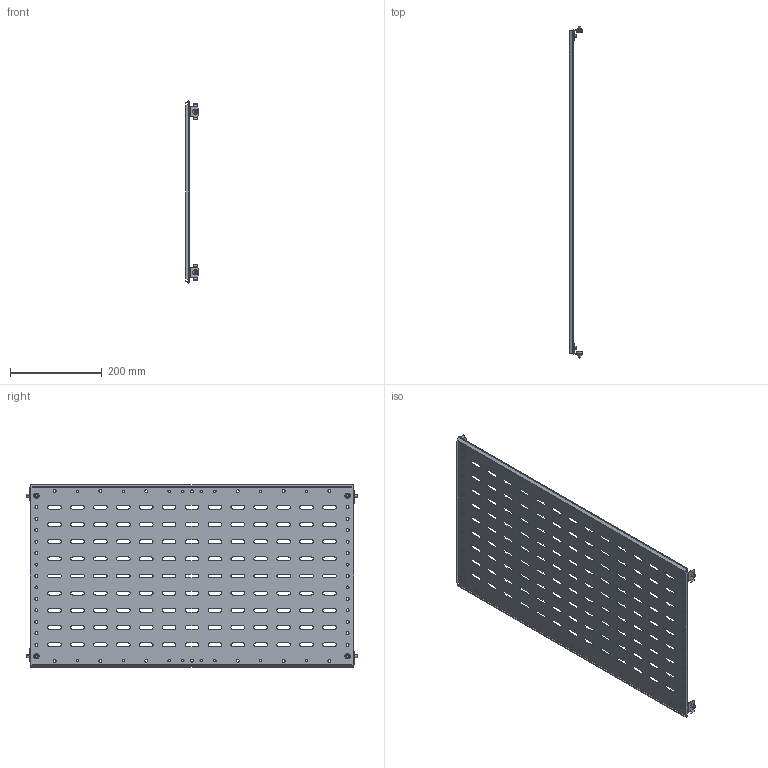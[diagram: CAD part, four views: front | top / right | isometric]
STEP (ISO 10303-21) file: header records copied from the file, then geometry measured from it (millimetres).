
FILE_DESCRIPTION (( 'STEP AP214' ), '1' );
FILE_NAME ('FO-00-SWF-040-080 Ïåðåãîðîäêà ñåêöèîíèðîâàíèÿ çàäíÿÿ 400õ800 ìì.STEP', '2025-08-12T09:17:20', ( '' ), ( '' ), 'SwSTEP 2.0', 'SolidWorks 2023', '' );
FILE_SCHEMA (( 'AUTOMOTIVE_DESIGN' ));
Length unit declared in the file: millimetre
Products named in the file (1): FO-00-SWF-040-080 Перегородка секционирования задняя 400х800 мм
Bounding box: 30.52 x 724 x 397.66 mm (x, y, z)
Volume: 415917.8 mm3; surface area: 563731.5 mm2
Topology: 1 solids, 5 shells, 1089 faces, 3109 edges, 2050 vertices
Faces by surface type: cylinder 639, plane 394, cone 24, torus 24, sphere 8
Entity records: 36788 total; most frequent: CARTESIAN_POINT 6517, DIRECTION 6515, ORIENTED_EDGE 6218, EDGE_CURVE 3109, AXIS2_PLACEMENT_3D 2384, VERTEX_POINT 2050, VECTOR 1747, LINE 1747
